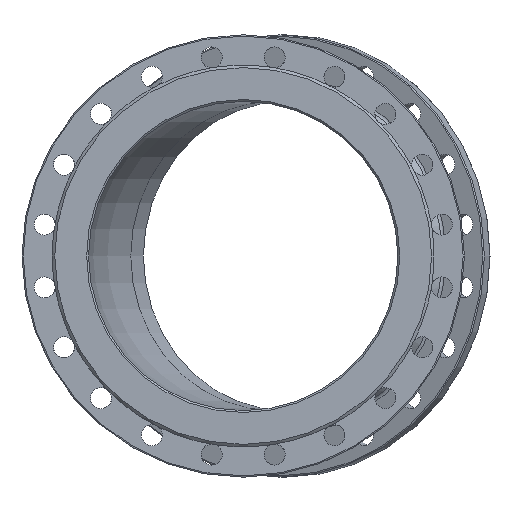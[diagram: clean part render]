
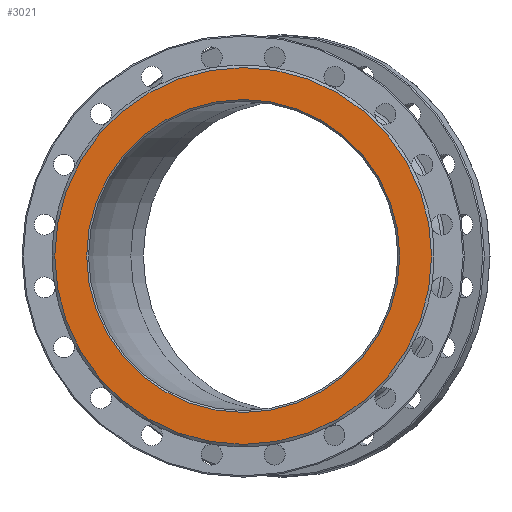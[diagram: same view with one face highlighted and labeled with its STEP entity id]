
A CAD part, left-side view. The second image highlights one B-rep face of the part: STEP entity #3021.
In plain terms, the highlighted planar face has unit normal (-1, 0, 0).
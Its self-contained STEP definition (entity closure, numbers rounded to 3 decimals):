
#602 = AXIS2_PLACEMENT_3D ( 'NONE', #6081, #3717, #4674 ) ;
#612 = ORIENTED_EDGE ( 'NONE', *, *, #2768, .T. ) ;
#806 = CIRCLE ( 'NONE', #602, 253. ) ;
#1023 = FACE_BOUND ( 'NONE', #2770, .T. ) ;
#1206 = AXIS2_PLACEMENT_3D ( 'NONE', #2968, #2941, #2021 ) ;
#1299 = VERTEX_POINT ( 'NONE', #1743 ) ;
#1371 = DIRECTION ( 'NONE',  ( 0., 1., 0. ) ) ;
#1743 = CARTESIAN_POINT ( 'NONE',  ( -185., 304.5, 0. ) ) ;
#2021 = DIRECTION ( 'NONE',  ( 0., -1., 0. ) ) ;
#2768 = EDGE_CURVE ( 'NONE', #3898, #3898, #806, .T. ) ;
#2770 = EDGE_LOOP ( 'NONE', ( #612 ) ) ;
#2779 = ORIENTED_EDGE ( 'NONE', *, *, #5951, .F. ) ;
#2941 = DIRECTION ( 'NONE',  ( -1., 0., 0. ) ) ;
#2968 = CARTESIAN_POINT ( 'NONE',  ( -185., 0., 0. ) ) ;
#3004 = PLANE ( 'NONE',  #1206 ) ;
#3021 = ADVANCED_FACE ( 'NONE', ( #1023, #3461 ), #3004, .T. ) ;
#3070 = CARTESIAN_POINT ( 'NONE',  ( -185., -253., 0. ) ) ;
#3311 = EDGE_LOOP ( 'NONE', ( #2779 ) ) ;
#3461 = FACE_OUTER_BOUND ( 'NONE', #3311, .T. ) ;
#3654 = DIRECTION ( 'NONE',  ( 1., 0., 0. ) ) ;
#3717 = DIRECTION ( 'NONE',  ( 1., 0., 0. ) ) ;
#3788 = AXIS2_PLACEMENT_3D ( 'NONE', #5076, #3654, #1371 ) ;
#3898 = VERTEX_POINT ( 'NONE', #3070 ) ;
#4674 = DIRECTION ( 'NONE',  ( 0., -1., 0. ) ) ;
#5076 = CARTESIAN_POINT ( 'NONE',  ( -185., 0., 0. ) ) ;
#5475 = CIRCLE ( 'NONE', #3788, 304.5 ) ;
#5951 = EDGE_CURVE ( 'NONE', #1299, #1299, #5475, .T. ) ;
#6081 = CARTESIAN_POINT ( 'NONE',  ( -185., 0., 0. ) ) ;
